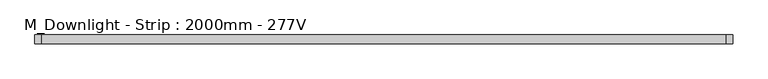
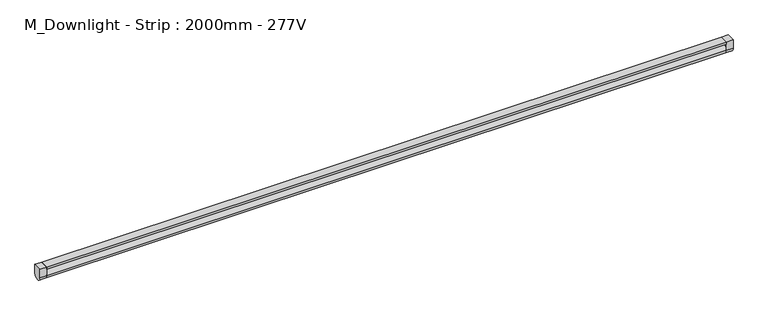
"""IFC4 building model written with IfcOpenShell, lengths in millimetres: light fixture geometry, M_Downlight - Strip : 2000mm - 277V."""

from ifc_helpers import new_model, si_unit, point, frame, frame_2d, origin, place, context, project, spatial, polyline, circle_curve, trimmed, segment, composite_curve, outline, extrude, source, transform, mapped, element, save


def m_downlight_strip_2000mm_277v_7a66b3e4(model_context):
    return source(origin(), model_context, "Body", "SweptSolid", [
        extrude(outline(polyline([(980.95, 205.9435765), (-980.95, 205.9435765), (-980.95, 231.3435765), (980.95, 231.3435765), (980.95, 205.9435765)])), frame((0.0, 0.0, 1343.65), z_axis=(0.0, 0.0, 1.0), x_axis=(1.0, 0.0, 0.0)), (0.0, 0.0, 1.0), 6.35),
        extrude(outline(composite_curve([segment(polyline([(205.9435765, 1324.6), (205.9435765, 1350.0), (231.3435765, 1350.0), (231.3435765, 1324.6)]), True, "CONTINUOUS"), segment(trimmed(circle_curve(frame_2d((218.6435765, 1324.6)), 12.7), [point((231.3435765, 1324.6))], [point((205.9435765, 1324.6))], False, "CARTESIAN"), True, "CONTINUOUS")], self_intersect=False)), frame((-1000.0, 0.0, 0.0), z_axis=(1.0, 0.0, 0.0), x_axis=(0.0, 1.0, 0.0)), (0.0, 0.0, 1.0), 19.05),
        extrude(outline(composite_curve([segment(polyline([(205.9435765, 1324.6), (205.9435765, 1350.0), (231.3435765, 1350.0), (231.3435765, 1324.6)]), True, "CONTINUOUS"), segment(trimmed(circle_curve(frame_2d((218.6435765, 1324.6)), 12.7), [point((231.3435765, 1324.6))], [point((205.9435765, 1324.6))], False, "CARTESIAN"), True, "CONTINUOUS")], self_intersect=False)), frame((980.95, 0.0, 0.0), z_axis=(1.0, 0.0, 0.0), x_axis=(0.0, 1.0, 0.0)), (0.0, 0.0, 1.0), 19.05),
        extrude(outline(composite_curve([segment(trimmed(circle_curve(frame_2d((218.6435765, 1324.6)), 12.7), [point((231.3435765, 1324.6))], [point((205.9435765, 1324.6))], False, "CARTESIAN"), True, "CONTINUOUS"), segment(trimmed(circle_curve(frame_2d((218.6435765, 1324.6)), 12.7), [point((205.9435765, 1324.6))], [point((231.3435765, 1324.6))], False, "CARTESIAN"), True, "CONTINUOUS")], self_intersect=False)), frame((-980.95, 0.0, 0.0), z_axis=(1.0, 0.0, 0.0), x_axis=(0.0, 1.0, 0.0)), (0.0, 0.0, 1.0), 1961.9),
    ])


if __name__ == "__main__":
    model = new_model("IFC4")
    model_context = context("Model", 3, world=origin())
    ifc_project = project(units=[si_unit("LENGTHUNIT", "METRE", prefix="MILLI")], contexts=[model_context])
    site = spatial("IfcSite", under=ifc_project)
    building = spatial("IfcBuilding", under=site)
    placement = place(None, origin())
    m_downlight_strip_2000mm_277v_shape = m_downlight_strip_2000mm_277v_7a66b3e4(model_context)
    element("IfcLightFixture", 1, ObjectType="M_Downlight - Strip : 2000mm - 277V", at=placement, inside=building, context=model_context, shape_type="MappedRepresentation", body=[
        mapped(m_downlight_strip_2000mm_277v_shape, transform((0.0, 0.0, 0.0), x_axis=(1.0, 0.0, 0.0), y_axis=(0.0, 1.0, 0.0), z_axis=(0.0, 0.0, 1.0))),
    ])
    save(model, "model.ifc")
